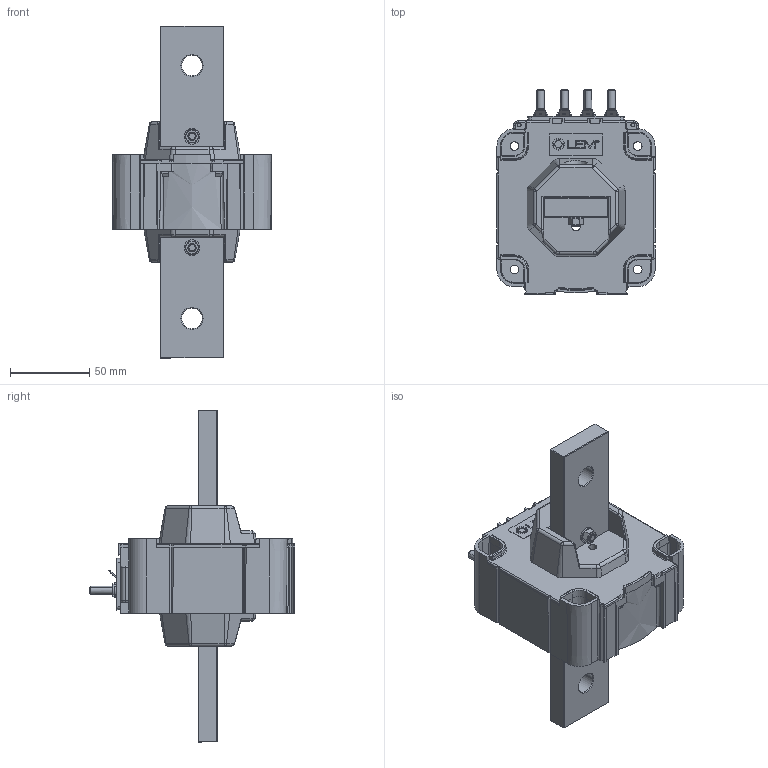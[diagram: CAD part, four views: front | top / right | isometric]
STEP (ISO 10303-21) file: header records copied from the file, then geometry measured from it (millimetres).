
FILE_DESCRIPTION(('Creo Elements/Direct Modeling STEP Export'),'2;1');
FILE_NAME('90.62.52.016.0_20200619.stp','2020-06-19T10:08:44',(''),(''),'Creo Elements/Direct Modeling STEP processor for AP214 (Solid Model)','Creo Elements/Direct Modeling 20.1 10-Mar-2018 (C) Parametric Technology GmbH','');
FILE_SCHEMA(('AUTOMOTIVE_DESIGN { 1 0 10303 214 1 1 1 1 }'));
Products named in the file (2): LTC_600-T_SP16
Assembly tree (1 placements, depth 2):
  LTC_600-T_SP16
    LTC_600-T_SP16
Bounding box: 100.14 x 130 x 210 mm (x, y, z)
Volume: 521825.9 mm3; surface area: 115249 mm2
Topology: 1 solids, 3 shells, 1993 faces, 5431 edges, 3493 vertices
Faces by surface type: plane 1030, cylinder 510, cone 209, bspline 139, extrusion 51, torus 50, sphere 4
Entity records: 102809 total; most frequent: CARTESIAN_POINT 48890, ORIENTED_EDGE 11153, DIRECTION 8702, EDGE_CURVE 5430, VERTEX_POINT 3500, VECTOR 3258, LINE 3207, AXIS2_PLACEMENT_3D 2722
